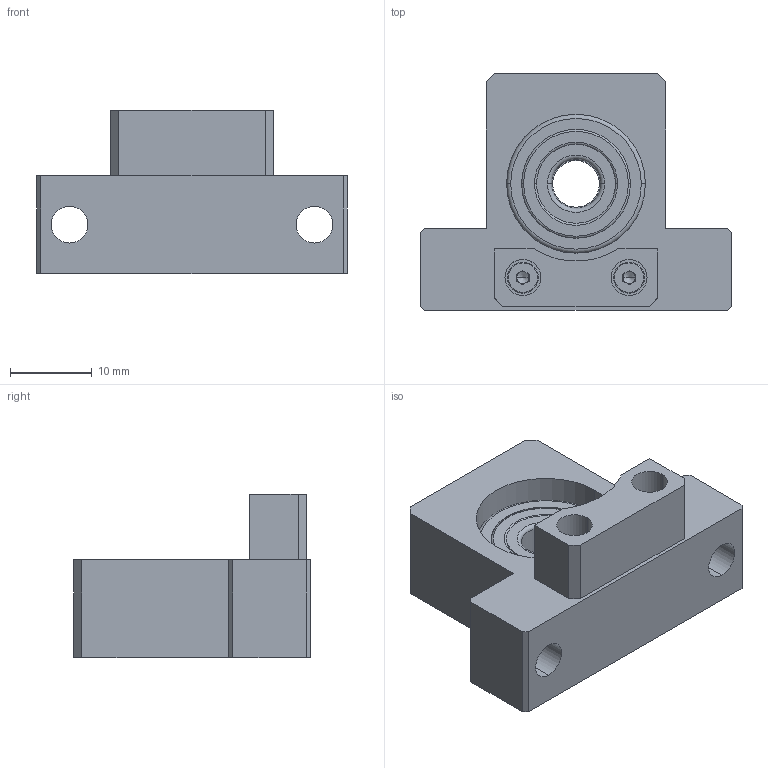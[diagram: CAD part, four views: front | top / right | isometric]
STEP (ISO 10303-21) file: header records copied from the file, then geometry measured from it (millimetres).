
FILE_DESCRIPTION (( 'STEP AP214' ), '1' );
FILE_NAME ('S-SBU-6.20-25.STEP', '2026-03-26T05:09:51', ( '决扁浅何厘' ), ( '' ), 'SwSTEP 2.0', 'SolidWorks 2024', '' );
FILE_SCHEMA (( 'AUTOMOTIVE_DESIGN' ));
Length unit declared in the file: millimetre
Products named in the file (6): STWN6; S-SBU-6.20-25 HOUSING; deep groove ball bearing (series 60)_ks_KS B 2023 S60 - 606-S-ZZ; S-SBU-6.20-25; socket head cap screw_ks_KS 1003 - M2 x 5 x 5-N; 6 DAMPER
Assembly tree (6 placements, depth 2):
  S-SBU-6.20-25
    S-SBU-6.20-25 HOUSING
    deep groove ball bearing (series 60)_ks_KS B 2023 S60 - 606-S-ZZ
    STWN6
    6 DAMPER
    socket head cap screw_ks_KS 1003 - M2 x 5 x 5-N  x2
Bounding box: 38 x 29 x 20 mm (x, y, z)
Volume: 8493.6 mm3; surface area: 6035.8 mm2
Topology: 6 solids, 8 shells, 187 faces, 431 edges, 262 vertices
Faces by surface type: plane 79, cylinder 64, torus 32, cone 12
Entity records: 4652 total; most frequent: DIRECTION 859, CARTESIAN_POINT 749, ORIENTED_EDGE 718, EDGE_CURVE 359, AXIS2_PLACEMENT_3D 335, VERTEX_POINT 225, LINE 189, VECTOR 189
